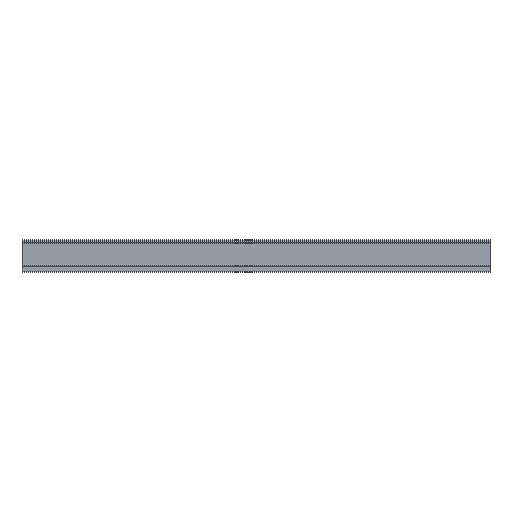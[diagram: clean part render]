
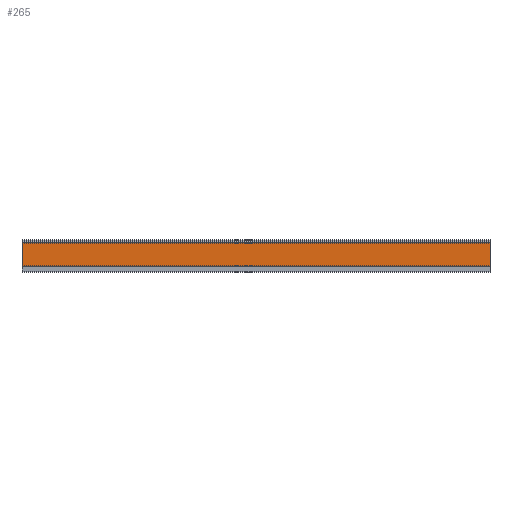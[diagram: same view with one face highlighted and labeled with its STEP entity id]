
A CAD part, left-side view. The second image highlights one B-rep face of the part: STEP entity #265.
In plain terms, the highlighted planar face has unit normal (-1, 0, 0).
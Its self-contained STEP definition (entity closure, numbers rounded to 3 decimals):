
#43 = VERTEX_POINT ( 'NONE', #598 ) ;
#118 = DIRECTION ( 'NONE',  ( 0., 0., -1. ) ) ;
#265 = ADVANCED_FACE ( 'NONE', ( #297 ), #4038, .F. ) ;
#278 = CARTESIAN_POINT ( 'NONE',  ( -9.75, 0., 18.604 ) ) ;
#297 = FACE_OUTER_BOUND ( 'NONE', #2670, .T. ) ;
#329 = ORIENTED_EDGE ( 'NONE', *, *, #3841, .F. ) ;
#396 = VECTOR ( 'NONE', #2288, 1000. ) ;
#437 = LINE ( 'NONE', #278, #2496 ) ;
#563 = VECTOR ( 'NONE', #1336, 1000. ) ;
#598 = CARTESIAN_POINT ( 'NONE',  ( -9.75, 0., 4. ) ) ;
#602 = ORIENTED_EDGE ( 'NONE', *, *, #2182, .T. ) ;
#620 = LINE ( 'NONE', #706, #563 ) ;
#706 = CARTESIAN_POINT ( 'NONE',  ( -9.75, 300., 4. ) ) ;
#1036 = EDGE_CURVE ( 'NONE', #1879, #3099, #3273, .T. ) ;
#1336 = DIRECTION ( 'NONE',  ( 0., -1., 0. ) ) ;
#1392 = CARTESIAN_POINT ( 'NONE',  ( -9.75, 300., 18.604 ) ) ;
#1449 = CARTESIAN_POINT ( 'NONE',  ( -9.75, 300., 4. ) ) ;
#1564 = ORIENTED_EDGE ( 'NONE', *, *, #3954, .T. ) ;
#1742 = LINE ( 'NONE', #3247, #3661 ) ;
#1879 = VERTEX_POINT ( 'NONE', #1449 ) ;
#1979 = CARTESIAN_POINT ( 'NONE',  ( -9.75, 300., 18.604 ) ) ;
#2182 = EDGE_CURVE ( 'NONE', #43, #3455, #437, .T. ) ;
#2288 = DIRECTION ( 'NONE',  ( 0., 0., 1. ) ) ;
#2382 = CARTESIAN_POINT ( 'NONE',  ( -9.75, 0., 18.604 ) ) ;
#2496 = VECTOR ( 'NONE', #3601, 1000. ) ;
#2670 = EDGE_LOOP ( 'NONE', ( #602, #329, #3538, #1564 ) ) ;
#3099 = VERTEX_POINT ( 'NONE', #4113 ) ;
#3247 = CARTESIAN_POINT ( 'NONE',  ( -9.75, 300., 18.604 ) ) ;
#3273 = LINE ( 'NONE', #1979, #396 ) ;
#3401 = AXIS2_PLACEMENT_3D ( 'NONE', #1392, #4024, #118 ) ;
#3455 = VERTEX_POINT ( 'NONE', #2382 ) ;
#3538 = ORIENTED_EDGE ( 'NONE', *, *, #1036, .F. ) ;
#3581 = DIRECTION ( 'NONE',  ( 0., -1., 0. ) ) ;
#3601 = DIRECTION ( 'NONE',  ( 0., 0., 1. ) ) ;
#3661 = VECTOR ( 'NONE', #3581, 1000. ) ;
#3841 = EDGE_CURVE ( 'NONE', #3099, #3455, #1742, .T. ) ;
#3954 = EDGE_CURVE ( 'NONE', #1879, #43, #620, .T. ) ;
#4024 = DIRECTION ( 'NONE',  ( 1., 0., 0. ) ) ;
#4038 = PLANE ( 'NONE',  #3401 ) ;
#4113 = CARTESIAN_POINT ( 'NONE',  ( -9.75, 300., 18.604 ) ) ;
